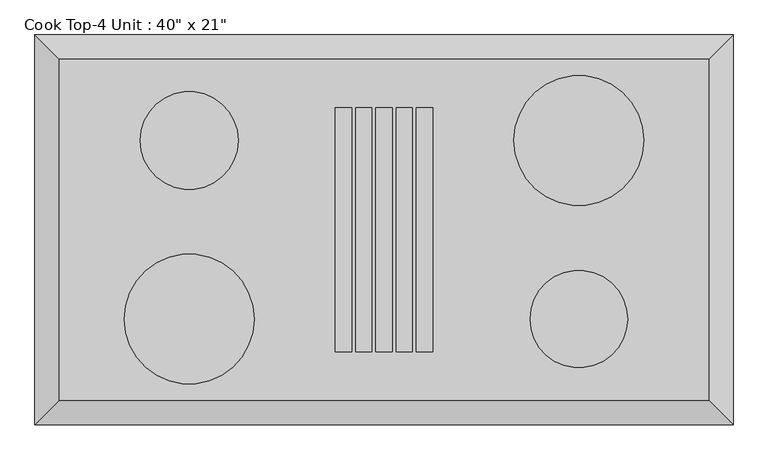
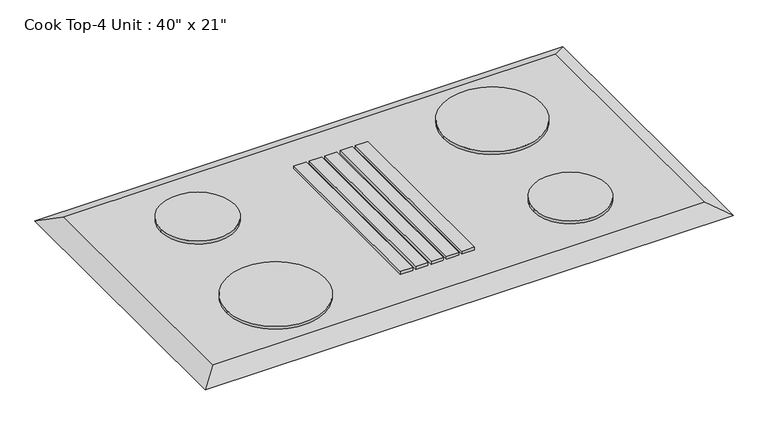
"""IFC4 building model written with IfcOpenShell, lengths in millimetres: proxy geometry."""

from ifc_helpers import new_model, si_unit, point, frame, frame_2d, origin, place, context, project, spatial, polyline, circle_curve, trimmed, segment, composite_curve, outline, extrude, faceted_brep, source, transform, mapped, element, save


def proxy_dee7c00b(model_context):
    return source(origin(), model_context, "Body", "SolidModel", [
        extrude(outline(composite_curve([segment(trimmed(circle_curve(frame_2d((-304.8, 139.7)), 76.5869489), [point((-228.2130511, 139.7))], [point((-381.3869489, 139.7))], False, "CARTESIAN"), True, "CONTINUOUS"), segment(trimmed(circle_curve(frame_2d((-304.8, 139.7)), 76.5869489), [point((-381.3869489, 139.7))], [point((-228.2130511, 139.7))], False, "CARTESIAN"), True, "CONTINUOUS")], self_intersect=False)), frame((0.0, 0.0, 806.45), z_axis=(0.0, 0.0, 1.0), x_axis=(1.0, 0.0, 0.0)), (0.0, 0.0, 1.0), 6.35),
        extrude(outline(composite_curve([segment(trimmed(circle_curve(frame_2d((304.8, 139.7)), 101.6), [point((406.4, 139.7))], [point((203.2, 139.7))], False, "CARTESIAN"), True, "CONTINUOUS"), segment(trimmed(circle_curve(frame_2d((304.8, 139.7)), 101.6), [point((203.2, 139.7))], [point((406.4, 139.7))], False, "CARTESIAN"), True, "CONTINUOUS")], self_intersect=False)), frame((0.0, 0.0, 806.45), z_axis=(0.0, 0.0, 1.0), x_axis=(1.0, 0.0, 0.0)), (0.0, 0.0, 1.0), 6.35),
        extrude(outline(composite_curve([segment(trimmed(circle_curve(frame_2d((304.8, -139.7)), 76.2), [point((381.0, -139.7))], [point((228.6, -139.7))], False, "CARTESIAN"), True, "CONTINUOUS"), segment(trimmed(circle_curve(frame_2d((304.8, -139.7)), 76.2), [point((228.6, -139.7))], [point((381.0, -139.7))], False, "CARTESIAN"), True, "CONTINUOUS")], self_intersect=False)), frame((0.0, 0.0, 806.45), z_axis=(0.0, 0.0, 1.0), x_axis=(1.0, 0.0, 0.0)), (0.0, 0.0, 1.0), 6.35),
        extrude(outline(polyline([(-50.8, 190.5), (-50.8, -190.5), (-76.2, -190.5), (-76.2, 190.5), (-50.8, 190.5)])), frame((0.0, 0.0, 806.45), z_axis=(0.0, 0.0, 1.0), x_axis=(1.0, 0.0, 0.0)), (0.0, 0.0, 1.0), 6.35),
        extrude(outline(polyline([(-19.05, 190.5), (-19.05, -190.5), (-44.45, -190.5), (-44.45, 190.5), (-19.05, 190.5)])), frame((0.0, 0.0, 806.45), z_axis=(0.0, 0.0, 1.0), x_axis=(1.0, 0.0, 0.0)), (0.0, 0.0, 1.0), 6.35),
        extrude(outline(polyline([(12.7, 190.5), (12.7, -190.5), (-12.7, -190.5), (-12.7, 190.5), (12.7, 190.5)])), frame((0.0, 0.0, 806.45), z_axis=(0.0, 0.0, 1.0), x_axis=(1.0, 0.0, 0.0)), (0.0, 0.0, 1.0), 6.35),
        extrude(outline(polyline([(44.45, 190.5), (44.45, -190.5), (19.05, -190.5), (19.05, 190.5), (44.45, 190.5)])), frame((0.0, 0.0, 806.45), z_axis=(0.0, 0.0, 1.0), x_axis=(1.0, 0.0, 0.0)), (0.0, 0.0, 1.0), 6.35),
        extrude(outline(polyline([(76.2, 190.5), (76.2, -190.5), (50.8, -190.5), (50.8, 190.5), (76.2, 190.5)])), frame((0.0, 0.0, 806.45), z_axis=(0.0, 0.0, 1.0), x_axis=(1.0, 0.0, 0.0)), (0.0, 0.0, 1.0), 6.35),
        faceted_brep([(508.0, 266.7, 806.45), (-508.0, 266.7, 806.45), (-508.0, -266.7, 806.45), (508.0, -266.7, 806.45), (546.1, 304.8, 787.4), (546.1, -304.8, 787.4), (-546.1, -304.8, 787.4), (-546.1, 304.8, 787.4)], [[[0, 1, 2, 3]], [[4, 5, 6, 7]], [[4, 7, 1, 0]], [[7, 6, 2, 1]], [[6, 5, 3, 2]], [[5, 4, 0, 3]]]),
        extrude(outline(composite_curve([segment(trimmed(circle_curve(frame_2d((-304.8, -139.7)), 101.6), [point((-203.2, -139.7))], [point((-406.4, -139.7))], False, "CARTESIAN"), True, "CONTINUOUS"), segment(trimmed(circle_curve(frame_2d((-304.8, -139.7)), 101.6), [point((-406.4, -139.7))], [point((-203.2, -139.7))], False, "CARTESIAN"), True, "CONTINUOUS")], self_intersect=False)), frame((0.0, 0.0, 806.45), z_axis=(0.0, 0.0, 1.0), x_axis=(1.0, 0.0, 0.0)), (0.0, 0.0, 1.0), 6.35),
    ])


if __name__ == "__main__":
    model = new_model("IFC4")
    model_context = context("Model", 3, world=origin())
    ifc_project = project(units=[si_unit("LENGTHUNIT", "METRE", prefix="MILLI")], contexts=[model_context])
    site = spatial("IfcSite", under=ifc_project)
    building = spatial("IfcBuilding", under=site)
    placement = place(None, origin())
    proxy_shape = proxy_dee7c00b(model_context)
    element("IfcBuildingElementProxy", 1, Name="Cook Top-4 Unit : 40\" x 21\"", ObjectType="Cook Top-4 Unit : 40\" x 21\"", at=placement, inside=building, context=model_context, shape_type="MappedRepresentation", body=[
        mapped(proxy_shape, transform((0.0, 0.0, 0.0), x_axis=(1.0, 0.0, 0.0), y_axis=(0.0, 1.0, 0.0), z_axis=(0.0, 0.0, 1.0))),
    ])
    save(model, "model.ifc")
